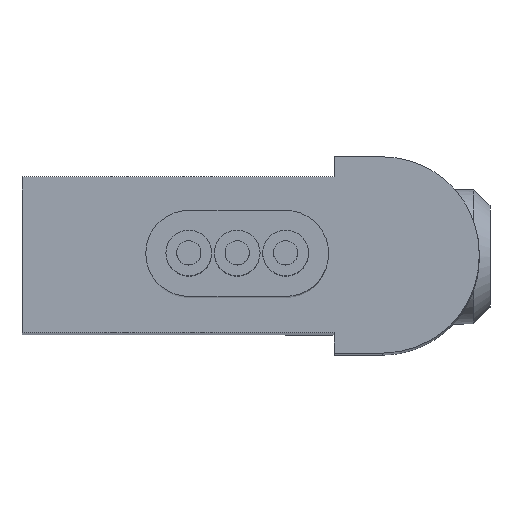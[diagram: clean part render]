
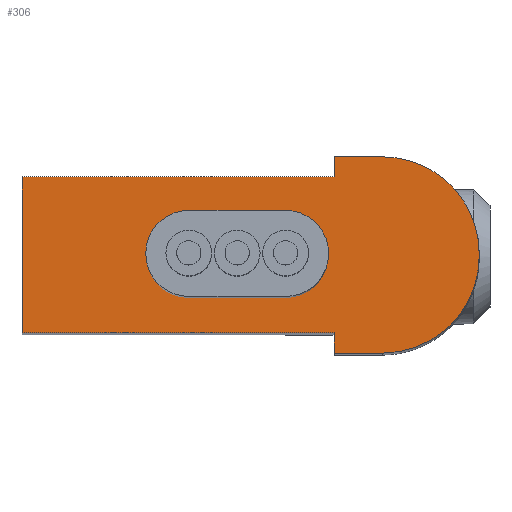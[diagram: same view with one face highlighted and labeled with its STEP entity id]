
A CAD part, top view. The second image highlights one B-rep face of the part: STEP entity #306.
In plain terms, the highlighted planar face has unit normal (0, 0, 1).
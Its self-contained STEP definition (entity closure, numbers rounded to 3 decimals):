
#13 = VERTEX_POINT ( 'NONE', #1034 ) ;
#44 = CARTESIAN_POINT ( 'NONE',  ( 8.5, -0.025, 0. ) ) ;
#45 = EDGE_CURVE ( 'NONE', #953, #524, #1372, .T. ) ;
#90 = CARTESIAN_POINT ( 'NONE',  ( 5.8, -1.45, 0. ) ) ;
#105 = DIRECTION ( 'NONE',  ( -1., 0., 0. ) ) ;
#133 = EDGE_CURVE ( 'NONE', #529, #1502, #862, .T. ) ;
#192 = DIRECTION ( 'NONE',  ( -1., 0., 0. ) ) ;
#226 = LINE ( 'NONE', #1237, #1380 ) ;
#306 = ADVANCED_FACE ( 'NONE', ( #1082 ), #505, .F. ) ;
#311 = CARTESIAN_POINT ( 'NONE',  ( 0., -1.45, 0. ) ) ;
#314 = CARTESIAN_POINT ( 'NONE',  ( 6.7, -0.025, 0. ) ) ;
#325 = CARTESIAN_POINT ( 'NONE',  ( 5.8, -1.825, 0. ) ) ;
#383 = DIRECTION ( 'NONE',  ( 0., 0., -1. ) ) ;
#395 = CARTESIAN_POINT ( 'NONE',  ( 6.7, 0.025, 0. ) ) ;
#413 = CARTESIAN_POINT ( 'NONE',  ( 6.7, 1.825, 0. ) ) ;
#416 = CARTESIAN_POINT ( 'NONE',  ( 8.5, 0., 0. ) ) ;
#420 = DIRECTION ( 'NONE',  ( -1., 0., 0. ) ) ;
#421 = VECTOR ( 'NONE', #1025, 1000. ) ;
#423 = LINE ( 'NONE', #1064, #889 ) ;
#425 = CARTESIAN_POINT ( 'NONE',  ( 6.7, -1.825, 0. ) ) ;
#447 = CARTESIAN_POINT ( 'NONE',  ( 8.5, 0.025, 0. ) ) ;
#449 = EDGE_CURVE ( 'NONE', #849, #1377, #1084, .T. ) ;
#504 = VECTOR ( 'NONE', #1227, 1000. ) ;
#505 = PLANE ( 'NONE',  #727 ) ;
#524 = VERTEX_POINT ( 'NONE', #44 ) ;
#529 = VERTEX_POINT ( 'NONE', #90 ) ;
#585 = ORIENTED_EDGE ( 'NONE', *, *, #963, .T. ) ;
#622 = ORIENTED_EDGE ( 'NONE', *, *, #1477, .T. ) ;
#639 = CARTESIAN_POINT ( 'NONE',  ( 0., 1.45, 0. ) ) ;
#717 = ORIENTED_EDGE ( 'NONE', *, *, #133, .F. ) ;
#727 = AXIS2_PLACEMENT_3D ( 'NONE', #1262, #383, #1195 ) ;
#748 = EDGE_LOOP ( 'NONE', ( #929, #1134, #1304, #585, #1358, #886, #1523, #622, #717, #866 ) ) ;
#755 = DIRECTION ( 'NONE',  ( 0., 1., 0. ) ) ;
#764 = AXIS2_PLACEMENT_3D ( 'NONE', #314, #1430, #767 ) ;
#767 = DIRECTION ( 'NONE',  ( -1., 0., 0. ) ) ;
#813 = DIRECTION ( 'NONE',  ( -1., 0., 0. ) ) ;
#822 = DIRECTION ( 'NONE',  ( 0., 0., 1. ) ) ;
#831 = CARTESIAN_POINT ( 'NONE',  ( 5.8, 1.825, 0. ) ) ;
#838 = LINE ( 'NONE', #1458, #1422 ) ;
#849 = VERTEX_POINT ( 'NONE', #413 ) ;
#860 = LINE ( 'NONE', #325, #966 ) ;
#862 = LINE ( 'NONE', #311, #421 ) ;
#866 = ORIENTED_EDGE ( 'NONE', *, *, #1205, .F. ) ;
#886 = ORIENTED_EDGE ( 'NONE', *, *, #995, .T. ) ;
#889 = VECTOR ( 'NONE', #755, 1000. ) ;
#901 = LINE ( 'NONE', #1395, #975 ) ;
#929 = ORIENTED_EDGE ( 'NONE', *, *, #1086, .F. ) ;
#953 = VERTEX_POINT ( 'NONE', #425 ) ;
#963 = EDGE_CURVE ( 'NONE', #1126, #849, #1268, .T. ) ;
#966 = VECTOR ( 'NONE', #105, 1000. ) ;
#968 = VERTEX_POINT ( 'NONE', #1329 ) ;
#975 = VECTOR ( 'NONE', #1038, 1000. ) ;
#993 = LINE ( 'NONE', #416, #504 ) ;
#995 = EDGE_CURVE ( 'NONE', #1377, #968, #838, .T. ) ;
#1025 = DIRECTION ( 'NONE',  ( -1., 0., 0. ) ) ;
#1034 = CARTESIAN_POINT ( 'NONE',  ( 5.8, -1.825, 0. ) ) ;
#1038 = DIRECTION ( 'NONE',  ( 0., -1., 0. ) ) ;
#1064 = CARTESIAN_POINT ( 'NONE',  ( 5.8, -1.825, 0. ) ) ;
#1082 = FACE_OUTER_BOUND ( 'NONE', #748, .T. ) ;
#1084 = LINE ( 'NONE', #1520, #1360 ) ;
#1086 = EDGE_CURVE ( 'NONE', #953, #13, #860, .T. ) ;
#1126 = VERTEX_POINT ( 'NONE', #447 ) ;
#1134 = ORIENTED_EDGE ( 'NONE', *, *, #45, .T. ) ;
#1150 = AXIS2_PLACEMENT_3D ( 'NONE', #395, #822, #192 ) ;
#1161 = EDGE_CURVE ( 'NONE', #524, #1126, #993, .T. ) ;
#1195 = DIRECTION ( 'NONE',  ( -1., 0., 0. ) ) ;
#1205 = EDGE_CURVE ( 'NONE', #13, #529, #423, .T. ) ;
#1227 = DIRECTION ( 'NONE',  ( 0., 1., 0. ) ) ;
#1237 = CARTESIAN_POINT ( 'NONE',  ( 0., 1.45, 0. ) ) ;
#1260 = DIRECTION ( 'NONE',  ( 0., -1., 0. ) ) ;
#1262 = CARTESIAN_POINT ( 'NONE',  ( 0., 1.45, 0. ) ) ;
#1268 = CIRCLE ( 'NONE', #1150, 1.8 ) ;
#1304 = ORIENTED_EDGE ( 'NONE', *, *, #1161, .T. ) ;
#1329 = CARTESIAN_POINT ( 'NONE',  ( 5.8, 1.45, 0. ) ) ;
#1358 = ORIENTED_EDGE ( 'NONE', *, *, #449, .T. ) ;
#1360 = VECTOR ( 'NONE', #420, 1000. ) ;
#1372 = CIRCLE ( 'NONE', #764, 1.8 ) ;
#1377 = VERTEX_POINT ( 'NONE', #831 ) ;
#1380 = VECTOR ( 'NONE', #813, 1000. ) ;
#1395 = CARTESIAN_POINT ( 'NONE',  ( 0., 0., 0. ) ) ;
#1398 = VERTEX_POINT ( 'NONE', #639 ) ;
#1406 = EDGE_CURVE ( 'NONE', #968, #1398, #226, .T. ) ;
#1422 = VECTOR ( 'NONE', #1260, 1000. ) ;
#1426 = CARTESIAN_POINT ( 'NONE',  ( 0., -1.45, 0. ) ) ;
#1430 = DIRECTION ( 'NONE',  ( 0., 0., 1. ) ) ;
#1458 = CARTESIAN_POINT ( 'NONE',  ( 5.8, 1.825, 0. ) ) ;
#1477 = EDGE_CURVE ( 'NONE', #1398, #1502, #901, .T. ) ;
#1502 = VERTEX_POINT ( 'NONE', #1426 ) ;
#1520 = CARTESIAN_POINT ( 'NONE',  ( 5.8, 1.825, 0. ) ) ;
#1523 = ORIENTED_EDGE ( 'NONE', *, *, #1406, .T. ) ;
